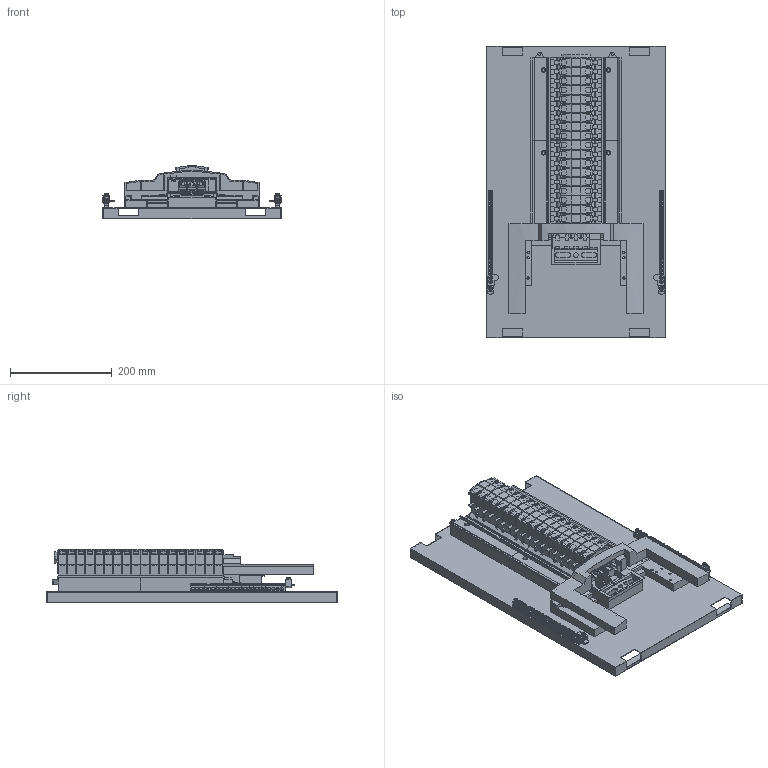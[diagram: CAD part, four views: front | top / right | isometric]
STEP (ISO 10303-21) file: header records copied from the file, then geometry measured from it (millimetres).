
FILE_DESCRIPTION((''),'2;1');
FILE_NAME('SEA9BN12PEV_ASM','2018-02-15T',('SESA231899'),('Schneider-Electric'),'PRO/ENGINEER BY PARAMETRIC TECHNOLOGY CORPORATION, 2015440','PRO/ENGINEER BY PARAMETRIC TECHNOLOGY CORPORATION, 2015440','');
FILE_SCHEMA(('CONFIG_CONTROL_DESIGN'));
Length unit declared in the file: millimetre
Products named in the file (18): PRT0002_1; PRT0001; PRT0002; PRT0003; PRT0004; PRT0005; PRT0006; PRT0007; PRT0010; ASM0001_ASM; PRT0008; PRT0009; HRB3443401; HRB3443601; HRB3443501; HRB5571801_ASM; PRT0002_111; SEA9BN12PEV_ASM
Assembly tree (48 placements, depth 3):
  SEA9BN12PEV_ASM
    PRT0002_1  x2
    PRT0001  x6
    PRT0002  x3
    PRT0003
    PRT0004  x2
    PRT0005
    ASM0001_ASM  x2
      PRT0006
      PRT0007
      PRT0010
    PRT0008
    PRT0009
    HRB5571801_ASM
      HRB3443401
      HRB3443601
      HRB3443501
    PRT0002_111
Bounding box: 350 x 571 x 104.64 mm (x, y, z)
Volume: 2849412.5 mm3; surface area: 1082524.8 mm2
Topology: 69 solids, 69 shells, 4191 faces, 11485 edges, 7541 vertices
Faces by surface type: plane 3151, cylinder 698, extrusion 330, cone 12
Entity records: 47182 total; most frequent: CARTESIAN_POINT 10226, ORIENTED_EDGE 7854, DIRECTION 7145, EDGE_CURVE 3927, VECTOR 3205, LINE 3145, VERTEX_POINT 2567, AXIS2_PLACEMENT_3D 1970
